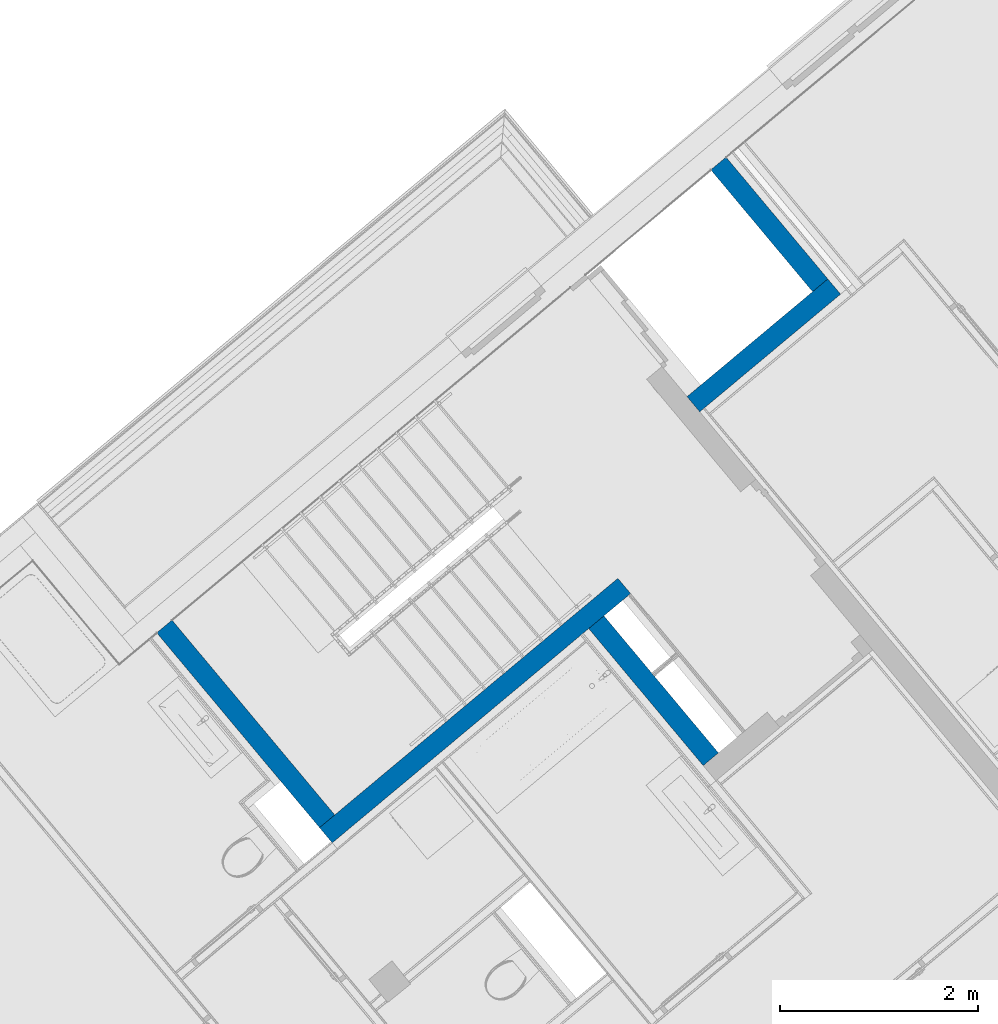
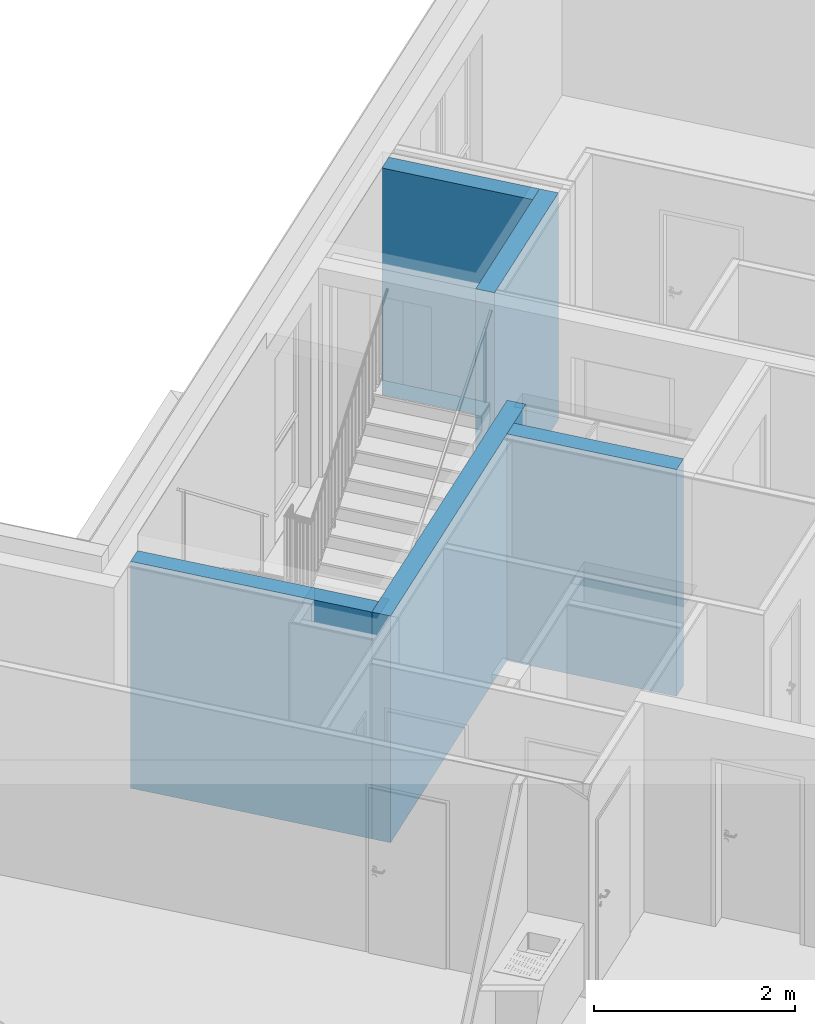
# One storey, part 10 of 53: 5 walls.
"""IFC4 building model written with IfcOpenShell, lengths in metres."""

from ifc_helpers import new_model, entity, si_unit, converted_unit, derived_unit, direction, frame, origin_with_axes, place, context, subcontext, project, spatial, polygons, material, type_object, element, save


model = new_model("IFC4")

# Units and contexts
model_context = context("Model", 3, precision=1e-05, world=origin_with_axes(), true_north=direction((0.0, 1.0)))
body_context = subcontext(model_context, "Body", "Model", "MODEL_VIEW")
ifc_project = project(units=[si_unit("LENGTHUNIT", "METRE"), si_unit("AREAUNIT", "SQUARE_METRE"), si_unit("VOLUMEUNIT", "CUBIC_METRE"), converted_unit("PLANEANGLEUNIT", "DEGREE", entity("IfcPlaneAngleMeasure", 0.0174532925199), si_unit("PLANEANGLEUNIT", "RADIAN"), dimensions=[0, 0, 0, 0, 0, 0, 0]), converted_unit("TIMEUNIT", "Year", entity("IfcTimeMeasure", 31556926.0), si_unit("TIMEUNIT", "SECOND"), dimensions=[0, 0, 1, 0, 0, 0, 0]), si_unit("MASSUNIT", "GRAM", prefix="KILO"), si_unit("THERMODYNAMICTEMPERATUREUNIT", "DEGREE_CELSIUS"), si_unit("LUMINOUSINTENSITYUNIT", "LUMEN"), si_unit("ENERGYUNIT", "JOULE", prefix="MEGA"), derived_unit("THERMALCONDUCTANCEUNIT", [(si_unit("POWERUNIT", "WATT"), 1), (si_unit("LENGTHUNIT", "METRE"), -1), (si_unit("THERMODYNAMICTEMPERATUREUNIT", "KELVIN"), -1)]), derived_unit("SPECIFICHEATCAPACITYUNIT", [(si_unit("ENERGYUNIT", "JOULE"), 1), (si_unit("MASSUNIT", "GRAM", prefix="KILO"), -1), (si_unit("THERMODYNAMICTEMPERATUREUNIT", "KELVIN"), -1)]), derived_unit("MASSDENSITYUNIT", [(si_unit("MASSUNIT", "GRAM", prefix="KILO"), 1), (si_unit("VOLUMEUNIT", "CUBIC_METRE"), -1)])], contexts=[model_context])

# Site, building, storey
site_placement = place(None, frame((-0.00153261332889, -0.00661245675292, 0.0), z_axis=(0.0, 0.0, 1.0), x_axis=(1.0, 0.0, 0.0)))
site = spatial("IfcSite", under=ifc_project, at=site_placement, Name="Gelände", CompositionType="ELEMENT")
building_placement = place(site_placement, origin_with_axes())
building = spatial("IfcBuilding", under=site, at=building_placement, Name="Gebäude", CompositionType="ELEMENT")
storey_placement = place(building_placement, frame((0.0, 0.0, 2.74), z_axis=(0.0, 0.0, 1.0), x_axis=(1.0, 0.0, 0.0)))
storey = spatial("IfcBuildingStorey", under=building, at=storey_placement, Name="OG1", CompositionType="ELEMENT", Elevation=2.74)

# Walls
ifc_material = material(Name="Stahlbeton Wand")
wall_type = type_object("IfcWallType", Name="Stahlbeton Wand 200", PredefinedType="NOTDEFINED")
wall_1_placement = place(storey_placement, frame((0.665404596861, 22.952518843, 0.0), z_axis=(0.0, 0.0, 1.0), x_axis=(-0.767365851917, -0.641209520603, 0.0)))
element("IfcWall", 1, at=wall_1_placement, inside=storey, type_object=wall_type, material=ifc_material, Name="Wand-003", PredefinedType="NOTDEFINED", context=body_context, shape_type="Tessellation", body=[
    polygons([(3.92113772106, 0.2, 0.0), (3.92113772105, 0.0, 0.0), (0.0, 0.0, 0.0), (0.0, 0.2, 0.0), (3.92113772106, 0.2, 2.76), (3.92113772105, 0.0, 2.76), (0.0, 0.0, 2.76), (0.0, 0.2, 2.76)], [[[1, 2, 3, 4]], [[2, 1, 5, 6]], [[2, 6, 7, 3]], [[8, 4, 3, 7]], [[5, 1, 4, 8]], [[6, 5, 8, 7]]], closed=True),
])
wall_2_placement = place(storey_placement, frame((-2.19006942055, 20.5664899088, 0.0), z_axis=(0.0, 0.0, 1.0), x_axis=(-0.641209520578, 0.767365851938, 0.0)))
element("IfcWall", 2, at=wall_2_placement, inside=storey, type_object=wall_type, material=ifc_material, Name="Wand-003", PredefinedType="NOTDEFINED", context=body_context, shape_type="Tessellation", body=[
    polygons([(2.56037085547, 0.2, 0.0), (2.56037085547, 0.0, 0.0), (0.0, 0.0, 0.0), (0.0, 0.2, 0.0), (2.56037085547, 0.2, 2.76), (2.56037085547, 0.0, 2.76), (0.0, 0.0, 2.76), (0.0, 0.2, 2.76)], [[[1, 2, 3, 4]], [[2, 1, 5, 6]], [[2, 6, 7, 3]], [[8, 4, 3, 7]], [[5, 1, 4, 8]], [[6, 5, 8, 7]]], closed=True),
])
wall_3_placement = place(storey_placement, frame((1.65427756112, 20.9103763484, 0.0), z_axis=(0.0, 0.0, 1.0), x_axis=(-0.641209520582, 0.767365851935, 0.0)))
element("IfcWall", 3, at=wall_3_placement, inside=storey, type_object=wall_type, material=ifc_material, Name="Wand-003", PredefinedType="NOTDEFINED", context=body_context, shape_type="Tessellation", body=[
    polygons([(0.199905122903, -0.2, 2.76), (2.00114517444, -0.2, 2.76), (2.00114517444, 0.0, 2.76), (0.200000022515, 0.0, 2.76), (0.199905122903, -0.2, 0.0), (2.00114517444, -0.2, 0.0), (2.00114517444, 0.0, 0.0), (0.200000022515, 0.0, 0.0)], [[[1, 2, 3, 4]], [[5, 6, 2, 1]], [[7, 3, 2, 6]], [[4, 3, 7, 8]], [[8, 5, 1, 4]], [[8, 7, 6, 5]]], closed=True),
])
wall_4_placement = place(storey_placement, frame((1.36278827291, 24.785276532, 0.0), z_axis=(0.0, 0.0, 1.0), x_axis=(0.767365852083, 0.641209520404, 0.0)))
element("IfcWall", 4, at=wall_4_placement, inside=storey, type_object=wall_type, material=ifc_material, Name="Wand-003", PredefinedType="NOTDEFINED", context=body_context, shape_type="Tessellation", body=[
    polygons([(1.85049975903, -0.2, 2.76), (1.85049975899, 0.0, 2.76), (0.0, 0.0, 2.76), (-9.48995889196e-05, -0.2, 2.76), (1.85049975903, -0.2, 0.0), (1.85049975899, 0.0, 0.0), (0.0, 0.0, 0.0), (-9.48995889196e-05, -0.2, 0.0)], [[[1, 2, 3, 4]], [[2, 1, 5, 6]], [[2, 6, 7, 3]], [[8, 4, 3, 7]], [[5, 1, 4, 8]], [[6, 5, 8, 7]]], closed=True),
])
wall_5_placement = place(storey_placement, frame((2.62932542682, 25.8435926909, 0.0), z_axis=(0.0, 0.0, 1.0), x_axis=(-0.641209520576, 0.767365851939, 0.0)))
element("IfcWall", 5, at=wall_5_placement, inside=storey, type_object=wall_type, material=ifc_material, Name="Wand-003", PredefinedType="NOTDEFINED", context=body_context, shape_type="Tessellation", body=[
    polygons([(1.60114424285, -0.2, 2.76), (1.60114424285, 0.0, 2.76), (0.0, 0.0, 2.76), (0.0, -0.2, 2.76), (1.60114424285, -0.2, 0.0), (1.60114424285, 0.0, 0.0), (0.0, 0.0, 0.0), (0.0, -0.2, 0.0)], [[[1, 2, 3, 4]], [[2, 1, 5, 6]], [[2, 6, 7, 3]], [[8, 4, 3, 7]], [[5, 1, 4, 8]], [[6, 5, 8, 7]]], closed=True),
])

save(model, "model.ifc")
